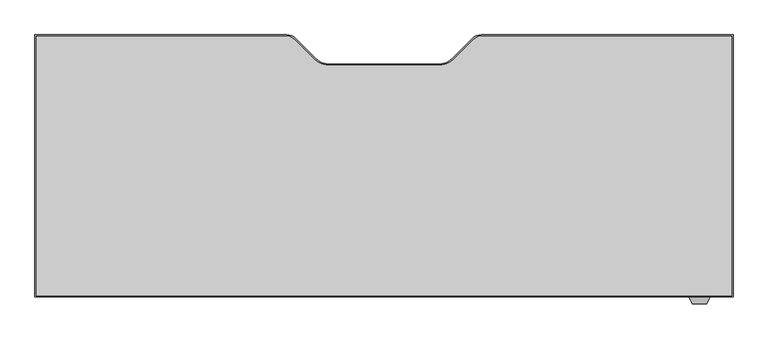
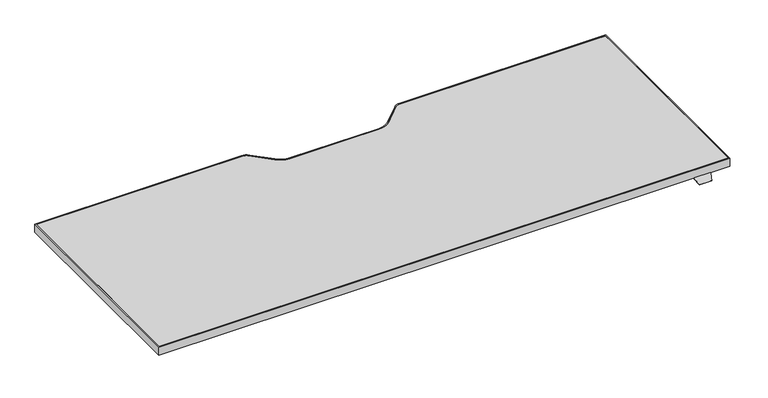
"""IFC4 building model written with IfcOpenShell, lengths in millimetres: furniture geometry, Steelcase Turnstone - Bivi - Height Adjustable Desk - T Base : 25D x 66.5W."""

from ifc_helpers import new_model, si_unit, point, frame, frame_2d, origin, place, context, project, spatial, polyline, circle_curve, trimmed, segment, composite_curve, outline, extrude, faceted_brep, source, transform, mapped, element, save


def furniture_da1cafdc(model_context):
    return source(origin(), model_context, "Body", "SolidModel", [
        faceted_brep([(398.5677913, -415.0301693, 760.9984131), (398.5677913, -412.5074599, 760.9984131), (398.5677913, -412.5074599, 762.4), (398.5677913, -415.0490853, 762.4), (398.5677913, -416.3594921, 761.3004382), (398.5677913, -416.3594921, 759.8829789), (348.9948135, -415.0490853, 762.4), (348.9948135, -412.5074599, 762.4), (348.9948135, -412.5074599, 760.9984131), (348.9948135, -415.0301693, 760.9984131), (348.9948135, -416.3594921, 759.8829789), (348.9948135, -416.3594921, 761.3004382), (391.5858363, -431.3323429, 748.7367246), (355.9767685, -431.3323429, 748.7367246), (355.6173686, -430.5616074, 747.9659891), (391.9452362, -430.5616074, 747.9659891)], [[[0, 1, 2, 3, 4, 5]], [[6, 7, 8, 9, 10, 11]], [[12, 13, 14, 15]], [[9, 0, 5, 15, 14, 10]], [[1, 0, 9, 8]], [[2, 1, 8, 7]], [[3, 2, 7, 6]], [[3, 6, 11, 13, 12, 4]], [[5, 4, 12, 15]], [[11, 10, 14, 13]]]),
        extrude(outline(composite_curve([segment(polyline([(-1233.7785908, 219.9509147), (-623.9070191, 219.9509147)]), True, "CONTINUOUS"), segment(trimmed(circle_curve(frame_2d((-623.9070191, 191.2489147)), 28.702), [point((-623.9070191, 219.9509147))], [point((-603.6116402, 211.5442935))], False, "CARTESIAN"), True, "CONTINUOUS"), segment(polyline([(-603.6116402, 211.5442935), (-556.0972358, 164.0298891)]), True, "CONTINUOUS"), segment(trimmed(circle_curve(frame_2d((-520.1762113, 199.9509136)), 50.8), [point((-556.0972358, 164.0298891))], [point((-520.1762113, 149.1509136))], True, "CARTESIAN"), True, "CONTINUOUS"), segment(polyline([(-520.1762113, 149.1509136), (-258.2809703, 149.1509136)]), True, "CONTINUOUS"), segment(trimmed(circle_curve(frame_2d((-258.2809703, 199.9509136)), 50.8), [point((-258.2809703, 149.1509136))], [point((-222.3599458, 164.0298891))], True, "CARTESIAN"), True, "CONTINUOUS"), segment(polyline([(-222.3599458, 164.0298891), (-174.8455414, 211.5442935)]), True, "CONTINUOUS"), segment(trimmed(circle_curve(frame_2d((-154.5501625, 191.2489147)), 28.702), [point((-174.8455414, 211.5442935))], [point((-154.5501625, 219.9509147))], False, "CARTESIAN"), True, "CONTINUOUS"), segment(polyline([(-154.5501625, 219.9509147), (455.3214092, 219.9509147), (455.3214092, -415.0490853), (-1233.7785908, -415.0490853), (-1233.7785908, 219.9509147)]), True, "CONTINUOUS")], self_intersect=False), holes=[composite_curve([segment(polyline([(-1230.3987543, 216.6489147), (-1230.3987543, -411.7470853), (452.0194092, -411.7470853), (452.0194092, 216.6489147), (-154.5501625, 216.6489147)]), True, "CONTINUOUS"), segment(trimmed(circle_curve(frame_2d((-154.5501625, 191.2489147)), 25.4), [point((-154.5501625, 216.6489147))], [point((-172.5106748, 209.2094269))], True, "CARTESIAN"), True, "CONTINUOUS"), segment(polyline([(-172.5106748, 209.2094269), (-220.527602, 161.1924998)]), True, "CONTINUOUS"), segment(trimmed(circle_curve(frame_2d((-256.4486265, 197.1135242)), 50.8), [point((-220.527602, 161.1924998))], [point((-256.4486265, 146.3135242))], False, "CARTESIAN"), True, "CONTINUOUS"), segment(polyline([(-256.4486265, 146.3135242), (-389.2285908, 146.3135242), (-522.0085552, 146.3135242)]), True, "CONTINUOUS"), segment(trimmed(circle_curve(frame_2d((-522.0085552, 197.1135242)), 50.8), [point((-522.0085552, 146.3135242))], [point((-557.9295796, 161.1924998))], False, "CARTESIAN"), True, "CONTINUOUS"), segment(polyline([(-557.9295796, 161.1924998), (-605.9465068, 209.2094269)]), True, "CONTINUOUS"), segment(trimmed(circle_curve(frame_2d((-623.9070191, 191.2489147)), 25.4), [point((-605.9465068, 209.2094269))], [point((-623.9070191, 216.6489147))], True, "CARTESIAN"), True, "CONTINUOUS"), segment(polyline([(-623.9070191, 216.6489147), (-1230.3987543, 216.6489147)]), True, "CONTINUOUS")], self_intersect=False)]), frame((0.0, 0.0, 762.4), z_axis=(0.0, 0.0, 1.0), x_axis=(1.0, 0.0, 0.0)), (0.0, 0.0, 1.0), 25.0),
        extrude(outline(composite_curve([segment(polyline([(-1230.3987543, 216.6489147), (-623.9070191, 216.6489147)]), True, "CONTINUOUS"), segment(trimmed(circle_curve(frame_2d((-623.9070191, 191.2489147)), 25.4), [point((-623.9070191, 216.6489147))], [point((-605.9465068, 209.2094269))], False, "CARTESIAN"), True, "CONTINUOUS"), segment(polyline([(-605.9465068, 209.2094269), (-557.9295796, 161.1924998)]), True, "CONTINUOUS"), segment(trimmed(circle_curve(frame_2d((-522.0085552, 197.1135242)), 50.8), [point((-557.9295796, 161.1924998))], [point((-522.0085552, 146.3135242))], True, "CARTESIAN"), True, "CONTINUOUS"), segment(polyline([(-522.0085552, 146.3135242), (-389.2285908, 146.3135242), (-256.4486265, 146.3135242)]), True, "CONTINUOUS"), segment(trimmed(circle_curve(frame_2d((-256.4486265, 197.1135242)), 50.8), [point((-256.4486265, 146.3135242))], [point((-220.527602, 161.1924998))], True, "CARTESIAN"), True, "CONTINUOUS"), segment(polyline([(-220.527602, 161.1924998), (-172.5106748, 209.2094269)]), True, "CONTINUOUS"), segment(trimmed(circle_curve(frame_2d((-154.5501625, 191.2489147)), 25.4), [point((-172.5106748, 209.2094269))], [point((-154.5501625, 216.6489147))], False, "CARTESIAN"), True, "CONTINUOUS"), segment(polyline([(-154.5501625, 216.6489147), (452.0194092, 216.6489147), (452.0194092, -411.7470853), (-1230.3987543, -411.7470853), (-1230.3987543, 216.6489147)]), True, "CONTINUOUS")], self_intersect=False)), frame((0.0, 0.0, 762.4), z_axis=(0.0, 0.0, 1.0), x_axis=(1.0, 0.0, 0.0)), (0.0, 0.0, 1.0), 25.0),
    ])


if __name__ == "__main__":
    model = new_model("IFC4")
    model_context = context("Model", 3, world=origin())
    ifc_project = project(units=[si_unit("LENGTHUNIT", "METRE", prefix="MILLI")], contexts=[model_context])
    site = spatial("IfcSite", under=ifc_project)
    building = spatial("IfcBuilding", under=site)
    placement = place(None, origin())
    furniture_shape = furniture_da1cafdc(model_context)
    element("IfcFurniture", 1, ObjectType="Steelcase Turnstone - Bivi - Height Adjustable Desk - T Base : 25D x 66.5W", at=placement, inside=building, context=model_context, shape_type="MappedRepresentation", body=[
        mapped(furniture_shape, transform((0.0, 0.0, 0.0), x_axis=(1.0, 0.0, 0.0), y_axis=(0.0, 1.0, 0.0), z_axis=(0.0, 0.0, 1.0))),
    ])
    save(model, "model.ifc")
